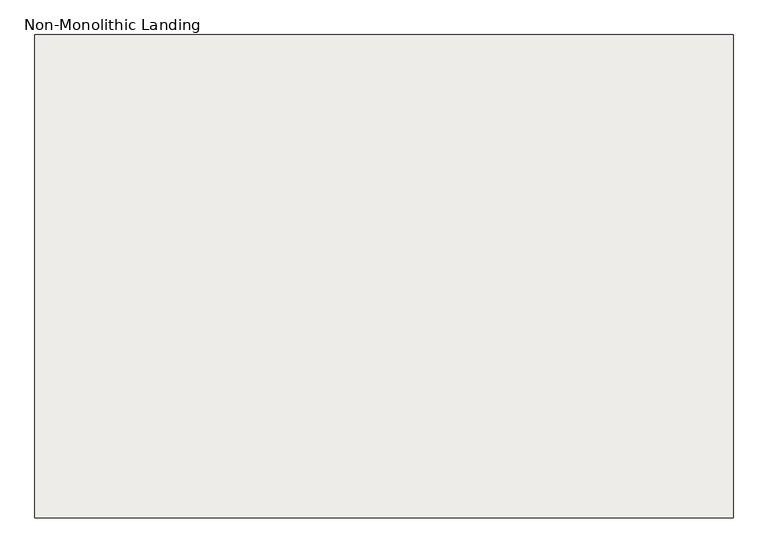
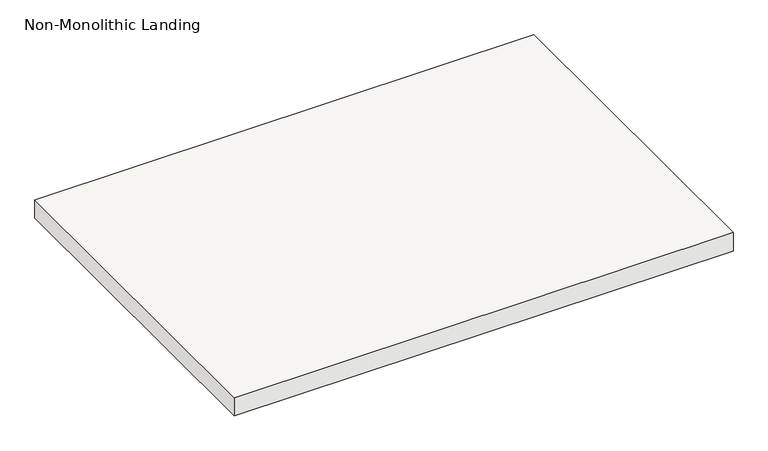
"""IFC4 building model written with IfcOpenShell, lengths in millimetres: slab geometry, Non-Monolithic Landing."""

from ifc_helpers import new_model, si_unit, frame, origin, place, context, project, spatial, polyline, outline, extrude, source, transform, mapped, element, save


def non_monolithic_landing_ddbb4e18(model_context):
    return source(origin(), model_context, "Body", "SweptSolid", [
        extrude(outline(polyline([(161298.0311068, 16680.5265585), (162618.8311068, 16680.5265585), (162618.8311068, 15766.1265585), (161298.0311068, 15766.1265585), (161298.0311068, 16680.5265585)])), frame((0.0, 0.0, 2126.3428571), z_axis=(0.0, 0.0, 1.0), x_axis=(1.0, 0.0, 0.0)), (0.0, 0.0, 1.0), 50.8),
    ])


if __name__ == "__main__":
    model = new_model("IFC4")
    model_context = context("Model", 3, world=origin())
    ifc_project = project(units=[si_unit("LENGTHUNIT", "METRE", prefix="MILLI")], contexts=[model_context])
    site = spatial("IfcSite", under=ifc_project)
    building = spatial("IfcBuilding", under=site)
    placement = place(None, origin())
    non_monolithic_landing_shape = non_monolithic_landing_ddbb4e18(model_context)
    element("IfcSlab", 1, ObjectType="Non-Monolithic Landing", at=placement, inside=building, context=model_context, shape_type="MappedRepresentation", body=[
        mapped(non_monolithic_landing_shape, transform((0.0, 0.0, 0.0), x_axis=(1.0, 0.0, 0.0), y_axis=(0.0, 1.0, 0.0), z_axis=(0.0, 0.0, 1.0))),
    ])
    save(model, "model.ifc")
